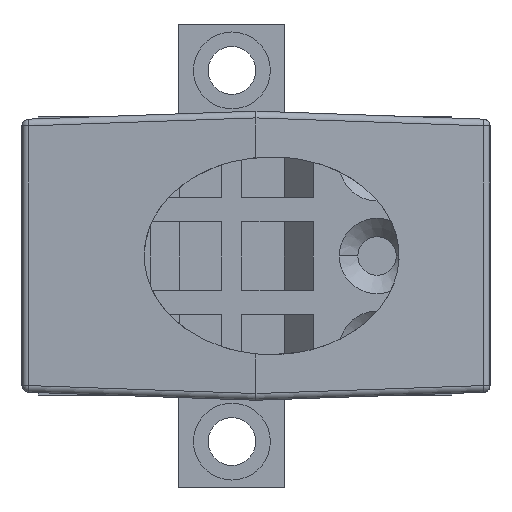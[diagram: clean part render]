
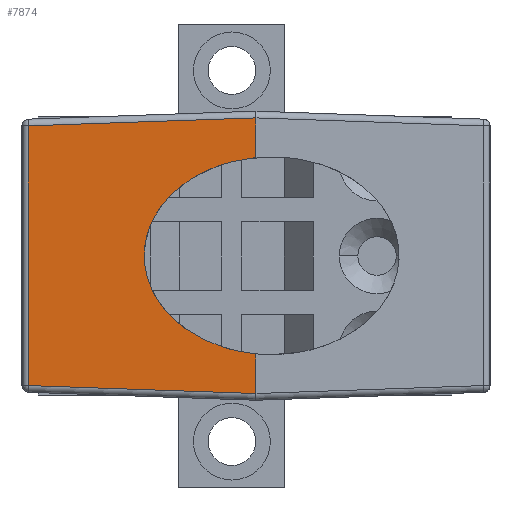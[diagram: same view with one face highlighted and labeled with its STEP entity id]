
A CAD part, left-side view. The second image highlights one B-rep face of the part: STEP entity #7874.
In plain terms, the highlighted planar face has unit normal (-0.999, 0.035, 0).
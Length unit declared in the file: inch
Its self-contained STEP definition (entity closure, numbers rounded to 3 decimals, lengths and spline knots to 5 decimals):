
#241=DIRECTION('',(0.,0.,1.));
#242=VECTOR('',#241,0.05875);
#243=CARTESIAN_POINT('',(-0.79213,0.,-0.00214));
#244=LINE('',#243,#242);
#245=DIRECTION('',(0.,0.,1.));
#246=VECTOR('',#245,0.05875);
#247=CARTESIAN_POINT('',(-0.79213,0.,0.34839));
#248=LINE('',#247,#246);
#865=DIRECTION('',(0.035,0.999,0.035));
#866=VECTOR('',#865,0.33826);
#867=CARTESIAN_POINT('',(-0.79213,0.,-0.00214));
#868=LINE('',#867,#866);
#869=DIRECTION('',(0.,0.,1.));
#870=VECTOR('',#869,0.38569);
#871=CARTESIAN_POINT('',(-0.78034,0.33785,
0.00966));
#872=LINE('',#871,#870);
#873=DIRECTION('',(-0.035,-0.999,0.035));
#874=VECTOR('',#873,0.33826);
#875=CARTESIAN_POINT('',(-0.78034,0.33785,
0.39534));
#876=LINE('',#875,#874);
#877=CARTESIAN_POINT('',(-0.79213,0.,0.34839));
#878=CARTESIAN_POINT('',(-0.792,0.00395,
0.34801));
#879=CARTESIAN_POINT('',(-0.79178,0.01008,
0.34725));
#880=CARTESIAN_POINT('',(-0.79144,0.01979,
0.34573));
#881=CARTESIAN_POINT('',(-0.79112,0.02915,
0.34383));
#882=CARTESIAN_POINT('',(-0.7908,0.03837,
0.34155));
#883=CARTESIAN_POINT('',(-0.79052,0.04627,
0.33927));
#884=CARTESIAN_POINT('',(-0.79027,0.05326,
0.33699));
#885=CARTESIAN_POINT('',(-0.78998,0.06167,
0.33395));
#886=CARTESIAN_POINT('',(-0.78966,0.07085,
0.33015));
#887=CARTESIAN_POINT('',(-0.78933,0.08039,
0.32559));
#888=CARTESIAN_POINT('',(-0.78903,0.08883,
0.32103));
#889=CARTESIAN_POINT('',(-0.78877,0.09639,
0.31647));
#890=CARTESIAN_POINT('',(-0.78845,0.10552,
0.3104));
#891=CARTESIAN_POINT('',(-0.7881,0.11541,
0.3028));
#892=CARTESIAN_POINT('',(-0.78775,0.12545,
0.29368));
#893=CARTESIAN_POINT('',(-0.78746,0.13398,
0.28456));
#894=CARTESIAN_POINT('',(-0.78712,0.14366,
0.2724));
#895=CARTESIAN_POINT('',(-0.78679,0.15301,
0.25721));
#896=CARTESIAN_POINT('',(-0.78653,0.16061,
0.23897));
#897=CARTESIAN_POINT('',(-0.78637,0.16503,
0.22074));
#898=CARTESIAN_POINT('',(-0.78632,0.16648,0.2025));
#899=CARTESIAN_POINT('',(-0.78637,0.16503,
0.18426));
#900=CARTESIAN_POINT('',(-0.78653,0.16061,
0.16603));
#901=CARTESIAN_POINT('',(-0.78679,0.15301,
0.14779));
#902=CARTESIAN_POINT('',(-0.78712,0.14366,
0.1326));
#903=CARTESIAN_POINT('',(-0.78746,0.13398,
0.12044));
#904=CARTESIAN_POINT('',(-0.78775,0.12545,
0.11132));
#905=CARTESIAN_POINT('',(-0.7881,0.11541,
0.1022));
#906=CARTESIAN_POINT('',(-0.78845,0.10552,
0.0946));
#907=CARTESIAN_POINT('',(-0.78877,0.09639,
0.08853));
#908=CARTESIAN_POINT('',(-0.78903,0.08883,
0.08397));
#909=CARTESIAN_POINT('',(-0.78933,0.08039,
0.07941));
#910=CARTESIAN_POINT('',(-0.78966,0.07085,
0.07485));
#911=CARTESIAN_POINT('',(-0.78998,0.06167,
0.07105));
#912=CARTESIAN_POINT('',(-0.79027,0.05326,
0.06801));
#913=CARTESIAN_POINT('',(-0.79052,0.04627,
0.06573));
#914=CARTESIAN_POINT('',(-0.7908,0.03837,
0.06345));
#915=CARTESIAN_POINT('',(-0.79112,0.02915,
0.06117));
#916=CARTESIAN_POINT('',(-0.79144,0.01979,
0.05927));
#917=CARTESIAN_POINT('',(-0.79178,0.01008,
0.05775));
#918=CARTESIAN_POINT('',(-0.792,0.00395,
0.05699));
#919=CARTESIAN_POINT('',(-0.79213,0.,0.05661));
#6158=CARTESIAN_POINT('',(-0.79213,0.,0.05661));
#6160=VERTEX_POINT('',#6158);
#6162=CARTESIAN_POINT('',(-0.79213,0.,0.34839));
#6164=VERTEX_POINT('',#6162);
#6245=CARTESIAN_POINT('',(-0.79213,0.,-0.00214));
#6246=CARTESIAN_POINT('',(-0.78034,0.33785,
0.00966));
#6247=VERTEX_POINT('',#6245);
#6248=VERTEX_POINT('',#6246);
#6255=CARTESIAN_POINT('',(-0.79213,0.,0.40714));
#6256=VERTEX_POINT('',#6255);
#6257=CARTESIAN_POINT('',(-0.78034,0.33785,
0.39534));
#6258=VERTEX_POINT('',#6257);
#7860=CARTESIAN_POINT('',(-0.78,0.3475,0.));
#7861=DIRECTION('',(-0.999,0.035,0.));
#7862=DIRECTION('',(0.,0.,1.));
#7863=AXIS2_PLACEMENT_3D('',#7860,#7861,#7862);
#7864=PLANE('',#7863);
#7865=ORIENTED_EDGE('',*,*,#7803,.T.);
#7866=ORIENTED_EDGE('',*,*,#7830,.T.);
#7867=ORIENTED_EDGE('',*,*,#7852,.T.);
#7868=ORIENTED_EDGE('',*,*,#7131,.F.);
#7870=ORIENTED_EDGE('',*,*,#7869,.T.);
#7871=ORIENTED_EDGE('',*,*,#7127,.F.);
#7872=EDGE_LOOP('',(#7865,#7866,#7867,#7868,#7870,#7871));
#7873=FACE_OUTER_BOUND('',#7872,.F.);
#7874=ADVANCED_FACE('',(#7873),#7864,.T.);
#920=B_SPLINE_CURVE_WITH_KNOTS('',3,(#877,#878,#879,#880,#881,#882,#883,#884,
#885,#886,#887,#888,#889,#890,#891,#892,#893,#894,#895,#896,#897,#898,#899,#900,
#901,#902,#903,#904,#905,#906,#907,#908,#909,#910,#911,#912,#913,#914,#915,#916,
#917,#918,#919),.UNSPECIFIED.,.F.,.F.,(4,1,1,1,1,1,1,1,1,1,1,1,1,1,1,1,1,1,1,1,
1,1,1,1,1,1,1,1,1,1,1,1,1,1,1,1,1,1,1,1,4),(0.,0.00391,0.00781,0.01563,
0.02344,0.03125,0.03906,0.04688,0.0625,0.07813,0.09375,0.10938,
0.125,0.15625,0.1875,0.21875,0.25,0.3125,0.375,0.4375,0.5,
0.5625,0.625,0.6875,0.75,0.78125,0.8125,0.84375,0.875,
0.89063,0.90625,0.92188,0.9375,0.95313,0.96094,0.96875,
0.97656,0.98438,0.99219,0.99609,1.),.UNSPECIFIED.);
#7127=EDGE_CURVE('',#6247,#6160,#244,.T.);
#7131=EDGE_CURVE('',#6164,#6256,#248,.T.);
#7803=EDGE_CURVE('',#6247,#6248,#868,.T.);
#7830=EDGE_CURVE('',#6248,#6258,#872,.T.);
#7852=EDGE_CURVE('',#6258,#6256,#876,.T.);
#7869=EDGE_CURVE('',#6164,#6160,#920,.T.);
